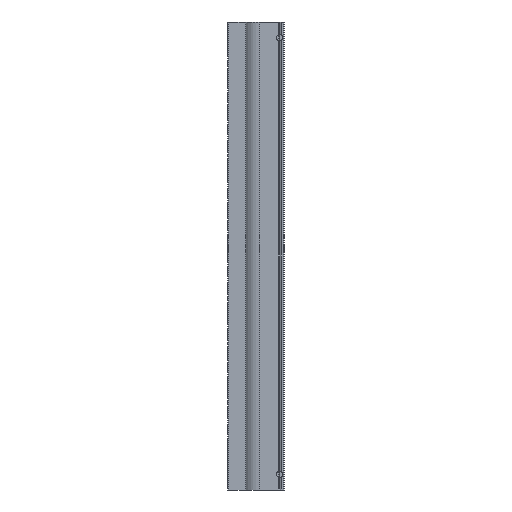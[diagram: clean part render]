
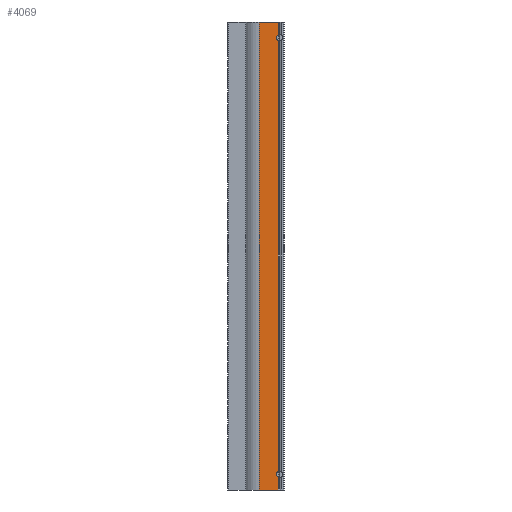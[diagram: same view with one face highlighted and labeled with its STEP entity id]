
A CAD part, left-side view. The second image highlights one B-rep face of the part: STEP entity #4069.
In plain terms, the highlighted planar face has unit normal (-1, 0, 0).
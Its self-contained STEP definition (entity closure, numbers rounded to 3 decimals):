
#66=LINE('',#6350,#258);
#67=LINE('',#6352,#259);
#68=LINE('',#6354,#260);
#69=LINE('',#6356,#261);
#70=LINE('',#6357,#262);
#71=LINE('',#6358,#263);
#258=VECTOR('',#5016,8.197);
#259=VECTOR('',#5017,12.134);
#260=VECTOR('',#5018,297.);
#261=VECTOR('',#5019,12.134);
#262=VECTOR('',#5020,8.197);
#263=VECTOR('',#5021,273.394);
#433=PLANE('',#4383);
#878=FACE_OUTER_BOUND('',#1154,.T.);
#1154=EDGE_LOOP('',(#2949,#2950,#2951,#2952,#2953,#2954,#2955,#2956));
#1665=CIRCLE('',#4345,2.);
#1672=CIRCLE('',#4362,2.);
#1929=VERTEX_POINT('',#6214);
#1933=VERTEX_POINT('',#6222);
#1945=VERTEX_POINT('',#6257);
#1949=VERTEX_POINT('',#6265);
#1975=VERTEX_POINT('',#6349);
#1976=VERTEX_POINT('',#6351);
#1977=VERTEX_POINT('',#6353);
#1978=VERTEX_POINT('',#6355);
#2352=EDGE_CURVE('',#1929,#1933,#1665,.T.);
#2368=EDGE_CURVE('',#1945,#1949,#1672,.T.);
#2405=EDGE_CURVE('',#1933,#1975,#66,.T.);
#2406=EDGE_CURVE('',#1975,#1976,#67,.T.);
#2407=EDGE_CURVE('',#1977,#1976,#68,.T.);
#2408=EDGE_CURVE('',#1977,#1978,#69,.T.);
#2409=EDGE_CURVE('',#1978,#1945,#70,.T.);
#2410=EDGE_CURVE('',#1949,#1929,#71,.T.);
#2949=ORIENTED_EDGE('',*,*,#2352,.T.);
#2950=ORIENTED_EDGE('',*,*,#2405,.T.);
#2951=ORIENTED_EDGE('',*,*,#2406,.T.);
#2952=ORIENTED_EDGE('',*,*,#2407,.F.);
#2953=ORIENTED_EDGE('',*,*,#2408,.T.);
#2954=ORIENTED_EDGE('',*,*,#2409,.T.);
#2955=ORIENTED_EDGE('',*,*,#2368,.T.);
#2956=ORIENTED_EDGE('',*,*,#2410,.T.);
#4069=ADVANCED_FACE('',(#878),#433,.T.);
#4345=AXIS2_PLACEMENT_3D('',#6224,#4913,#4914);
#4362=AXIS2_PLACEMENT_3D('',#6267,#4947,#4948);
#4383=AXIS2_PLACEMENT_3D('',#6348,#5014,#5015);
#4913=DIRECTION('center_axis',(1.,0.,0.));
#4914=DIRECTION('ref_axis',(0.,0.,1.));
#4947=DIRECTION('center_axis',(1.,0.,0.));
#4948=DIRECTION('ref_axis',(0.,0.,1.));
#5014=DIRECTION('center_axis',(-1.,0.,0.));
#5015=DIRECTION('ref_axis',(0.,0.,1.));
#5016=DIRECTION('',(0.,0.,1.));
#5017=DIRECTION('',(0.,1.,0.));
#5018=DIRECTION('',(0.,0.,1.));
#5019=DIRECTION('',(0.,-1.,0.));
#5020=DIRECTION('',(0.,0.,1.));
#5021=DIRECTION('',(0.,0.,1.));
#6214=CARTESIAN_POINT('',(-36.,3.866,136.697));
#6222=CARTESIAN_POINT('',(-36.,3.866,140.303));
#6224=CARTESIAN_POINT('Origin',(-36.,3.,138.5));
#6257=CARTESIAN_POINT('',(-36.,3.866,-140.303));
#6265=CARTESIAN_POINT('',(-36.,3.866,-136.697));
#6267=CARTESIAN_POINT('Origin',(-36.,3.,-138.5));
#6348=CARTESIAN_POINT('Origin',(-36.,3.866,0.));
#6349=CARTESIAN_POINT('',(-36.,3.866,148.5));
#6350=CARTESIAN_POINT('',(-36.,3.866,0.));
#6351=CARTESIAN_POINT('',(-36.,16.,148.5));
#6352=CARTESIAN_POINT('',(-36.,16.,148.5));
#6353=CARTESIAN_POINT('',(-36.,16.,-148.5));
#6354=CARTESIAN_POINT('',(-36.,16.,0.));
#6355=CARTESIAN_POINT('',(-36.,3.866,-148.5));
#6356=CARTESIAN_POINT('',(-36.,16.,-148.5));
#6357=CARTESIAN_POINT('',(-36.,3.866,0.));
#6358=CARTESIAN_POINT('',(-36.,3.866,0.));
